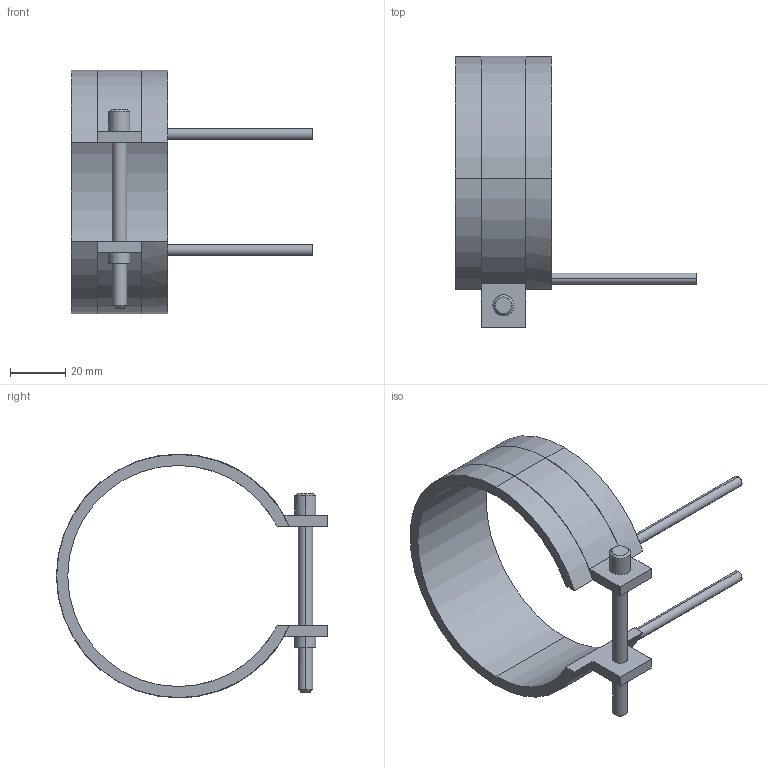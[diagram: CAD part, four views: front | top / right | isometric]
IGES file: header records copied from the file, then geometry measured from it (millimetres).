
Start section: START RECORD GO HERE.
Global section: file name: 14080035.igs; native system: DASSAULT SYSTEMES CATIA V5 R20 - www.3ds.com; preprocessor: CATIA Version 5 Release 20 ; author: Utente; organization: NB04-ASUS; date: 20210403.100439; units: millimetre
Bounding box: 87.5 x 98.1 x 88.2 mm (x, y, z)
Surface area: 21629.5 mm2 (no closed solid volume)
Topology: 0 solids, 0 shells, 45 faces, 232 edges, 232 vertices
Faces by surface type: revolution 28, plane 17
